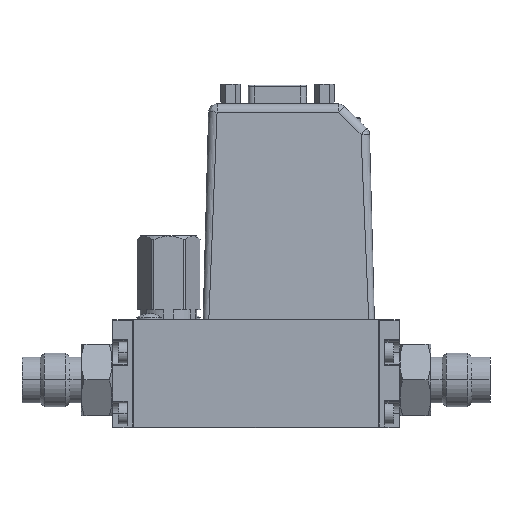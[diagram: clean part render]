
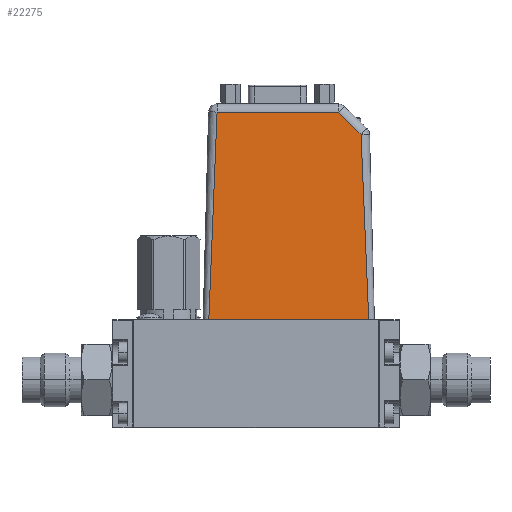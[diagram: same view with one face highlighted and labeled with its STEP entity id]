
A CAD part, top view. The second image highlights one B-rep face of the part: STEP entity #22275.
In plain terms, the highlighted planar face has unit normal (0, 0.026, 1).
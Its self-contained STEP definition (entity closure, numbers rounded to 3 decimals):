
#719 = VERTEX_POINT ( 'NONE', #23499 ) ;
#925 = DIRECTION ( 'NONE',  ( 0., 1., -0.026 ) ) ;
#1336 = EDGE_LOOP ( 'NONE', ( #17410, #11070, #27919, #21177, #4017, #21738 ) ) ;
#1588 = CARTESIAN_POINT ( 'NONE',  ( 53.101, 0., 12.4 ) ) ;
#1658 = CARTESIAN_POINT ( 'NONE',  ( 12.872, 55.058, 10.958 ) ) ;
#1825 = CARTESIAN_POINT ( 'NONE',  ( 51.515, 32.813, 11.541 ) ) ;
#3492 = VERTEX_POINT ( 'NONE', #24610 ) ;
#3523 = CARTESIAN_POINT ( 'NONE',  ( 54.6, 55.058, 10.958 ) ) ;
#4017 = ORIENTED_EDGE ( 'NONE', *, *, #26075, .T. ) ;
#4348 = CARTESIAN_POINT ( 'NONE',  ( 11.165, 18.359, 11.919 ) ) ;
#4773 = CARTESIAN_POINT ( 'NONE',  ( 54.6, 0., 12.4 ) ) ;
#6021 = LINE ( 'NONE', #4773, #19503 ) ;
#6315 = CARTESIAN_POINT ( 'NONE',  ( 44.997, 55.058, 10.958 ) ) ;
#8915 = LINE ( 'NONE', #34596, #22399 ) ;
#9375 =( BOUNDED_CURVE ( )  B_SPLINE_CURVE ( 3, ( #33111, #14316, #22445, #6315 ),
 .UNSPECIFIED., .F., .F. ) 
 B_SPLINE_CURVE_WITH_KNOTS ( ( 4, 4 ),
 ( 5.511, 6.283 ),
 .UNSPECIFIED. ) 
 CURVE ( )  GEOMETRIC_REPRESENTATION_ITEM ( )  RATIONAL_B_SPLINE_CURVE ( ( 1., 0.951, 0.951, 1. ) ) 
 REPRESENTATION_ITEM ( '' )  );
#10070 = DIRECTION ( 'NONE',  ( -1., 0., 0. ) ) ;
#11070 = ORIENTED_EDGE ( 'NONE', *, *, #19226, .T. ) ;
#14316 = CARTESIAN_POINT ( 'NONE',  ( 45.099, 55.038, 10.959 ) ) ;
#14559 = EDGE_CURVE ( 'NONE', #3492, #18278, #18598, .T. ) ;
#14784 = VECTOR ( 'NONE', #25051, 1000. ) ;
#17061 = DIRECTION ( 'NONE',  ( 0., 0.026, 1. ) ) ;
#17410 = ORIENTED_EDGE ( 'NONE', *, *, #30394, .T. ) ;
#18278 = VERTEX_POINT ( 'NONE', #24335 ) ;
#18541 = DIRECTION ( 'NONE',  ( -0.716, 0.698, -0.018 ) ) ;
#18598 = LINE ( 'NONE', #3523, #14784 ) ;
#18694 = EDGE_CURVE ( 'NONE', #27454, #719, #6021, .T. ) ;
#19226 = EDGE_CURVE ( 'NONE', #21989, #28679, #8915, .T. ) ;
#19503 = VECTOR ( 'NONE', #10070, 1000. ) ;
#20546 = CARTESIAN_POINT ( 'NONE',  ( 52.669, 16.416, 11.97 ) ) ;
#20607 = CARTESIAN_POINT ( 'NONE',  ( 51.062, 49.228, 11.111 ) ) ;
#20657 = CARTESIAN_POINT ( 'NONE',  ( 51.062, 49.228, 11.111 ) ) ;
#21177 = ORIENTED_EDGE ( 'NONE', *, *, #14559, .T. ) ;
#21738 = ORIENTED_EDGE ( 'NONE', *, *, #18694, .F. ) ;
#21989 = VERTEX_POINT ( 'NONE', #20607 ) ;
#22275 = ADVANCED_FACE ( 'NONE', ( #28016 ), #30436, .T. ) ;
#22399 = VECTOR ( 'NONE', #18541, 1000. ) ;
#22445 = CARTESIAN_POINT ( 'NONE',  ( 45.05, 55.058, 10.958 ) ) ;
#23186 = CARTESIAN_POINT ( 'NONE',  ( 10.684, 0., 12.4 ) ) ;
#23499 = CARTESIAN_POINT ( 'NONE',  ( 10.684, 0., 12.4 ) ) ;
#24303 = B_SPLINE_CURVE_WITH_KNOTS ( 'NONE', 3,
 ( #1658, #25633, #4348, #23186 ),
 .UNSPECIFIED., .F., .F.,
 ( 4, 4 ),
 ( 0.407, 0.6 ),
 .UNSPECIFIED. ) ;
#24335 = CARTESIAN_POINT ( 'NONE',  ( 12.872, 55.058, 10.958 ) ) ;
#24610 = CARTESIAN_POINT ( 'NONE',  ( 44.997, 55.058, 10.958 ) ) ;
#25051 = DIRECTION ( 'NONE',  ( -1., 0., 0. ) ) ;
#25582 = CARTESIAN_POINT ( 'NONE',  ( 45.137, 55.001, 10.96 ) ) ;
#25633 = CARTESIAN_POINT ( 'NONE',  ( 12.341, 36.7, 11.439 ) ) ;
#26075 = EDGE_CURVE ( 'NONE', #18278, #719, #24303, .T. ) ;
#26202 = AXIS2_PLACEMENT_3D ( 'NONE', #33137, #17061, #925 ) ;
#27454 = VERTEX_POINT ( 'NONE', #28464 ) ;
#27919 = ORIENTED_EDGE ( 'NONE', *, *, #34306, .T. ) ;
#28016 = FACE_OUTER_BOUND ( 'NONE', #1336, .T. ) ;
#28464 = CARTESIAN_POINT ( 'NONE',  ( 53.101, 0., 12.4 ) ) ;
#28679 = VERTEX_POINT ( 'NONE', #25582 ) ;
#29904 = B_SPLINE_CURVE_WITH_KNOTS ( 'NONE', 3,
 ( #1588, #20546, #1825, #20657 ),
 .UNSPECIFIED., .F., .F.,
 ( 4, 4 ),
 ( 0.4, 0.588 ),
 .UNSPECIFIED. ) ;
#30394 = EDGE_CURVE ( 'NONE', #27454, #21989, #29904, .T. ) ;
#30436 = PLANE ( 'NONE',  #26202 ) ;
#33111 = CARTESIAN_POINT ( 'NONE',  ( 45.137, 55.001, 10.96 ) ) ;
#33137 = CARTESIAN_POINT ( 'NONE',  ( 54.6, 0., 12.4 ) ) ;
#34306 = EDGE_CURVE ( 'NONE', #28679, #3492, #9375, .T. ) ;
#34596 = CARTESIAN_POINT ( 'NONE',  ( 77.491, 23.479, 11.785 ) ) ;
